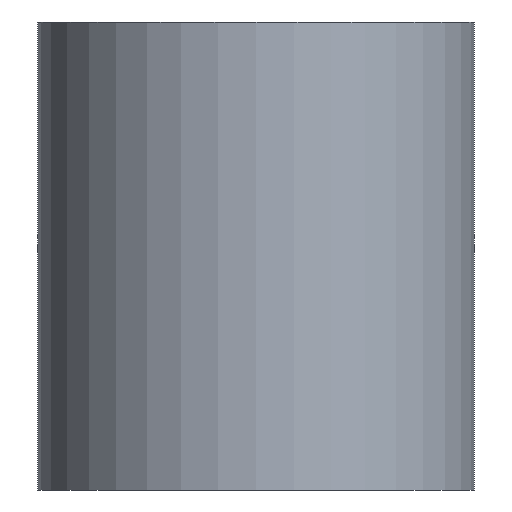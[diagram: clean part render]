
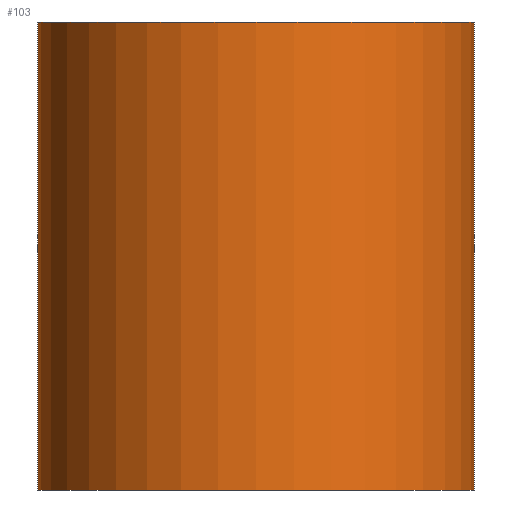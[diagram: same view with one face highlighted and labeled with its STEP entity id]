
A CAD part, left-side view. The second image highlights one B-rep face of the part: STEP entity #103.
In plain terms, the highlighted cylindrical face has radius 14 mm (diameter 28 mm), a partial arc.
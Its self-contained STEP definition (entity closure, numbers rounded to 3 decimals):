
#103=ADVANCED_FACE('',(#113),#109,.T.);
#109=CYLINDRICAL_SURFACE('',#188,14.);
#113=FACE_OUTER_BOUND('',#117,.T.);
#117=EDGE_LOOP('',(#133,#134,#135,#136));
#125=CIRCLE('',#186,14.);
#126=CIRCLE('',#187,14.);
#133=ORIENTED_EDGE('',*,*,#165,.T.);
#134=ORIENTED_EDGE('',*,*,#166,.F.);
#135=ORIENTED_EDGE('',*,*,#167,.F.);
#136=ORIENTED_EDGE('',*,*,#168,.T.);
#157=VERTEX_POINT('',#236);
#158=VERTEX_POINT('',#237);
#159=VERTEX_POINT('',#239);
#160=VERTEX_POINT('',#241);
#165=EDGE_CURVE('',#157,#158,#177,.T.);
#166=EDGE_CURVE('',#159,#158,#125,.T.);
#167=EDGE_CURVE('',#160,#159,#178,.T.);
#168=EDGE_CURVE('',#160,#157,#126,.T.);
#177=LINE('',#235,#181);
#178=LINE('',#240,#182);
#181=VECTOR('',#202,1.);
#182=VECTOR('',#205,1.);
#186=AXIS2_PLACEMENT_3D('',#238,#203,#204);
#187=AXIS2_PLACEMENT_3D('',#242,#206,#207);
#188=AXIS2_PLACEMENT_3D('',#243,#208,#209);
#202=DIRECTION('',(0.,0.,1.));
#203=DIRECTION('',(0.,0.,1.));
#204=DIRECTION('',(1.,0.,0.));
#205=DIRECTION('',(0.,0.,1.));
#206=DIRECTION('',(0.,0.,1.));
#207=DIRECTION('',(1.,0.,0.));
#208=DIRECTION('',(0.,0.,1.));
#209=DIRECTION('',(-1.,0.,0.));
#235=CARTESIAN_POINT('',(0.,-14.,0.));
#236=CARTESIAN_POINT('',(0.,-14.,0.));
#237=CARTESIAN_POINT('',(0.,-14.,30.));
#238=CARTESIAN_POINT('',(0.,0.,30.));
#239=CARTESIAN_POINT('',(0.,14.,30.));
#240=CARTESIAN_POINT('',(0.,14.,0.));
#241=CARTESIAN_POINT('',(0.,14.,0.));
#242=CARTESIAN_POINT('',(0.,0.,0.));
#243=CARTESIAN_POINT('',(0.,0.,0.));
